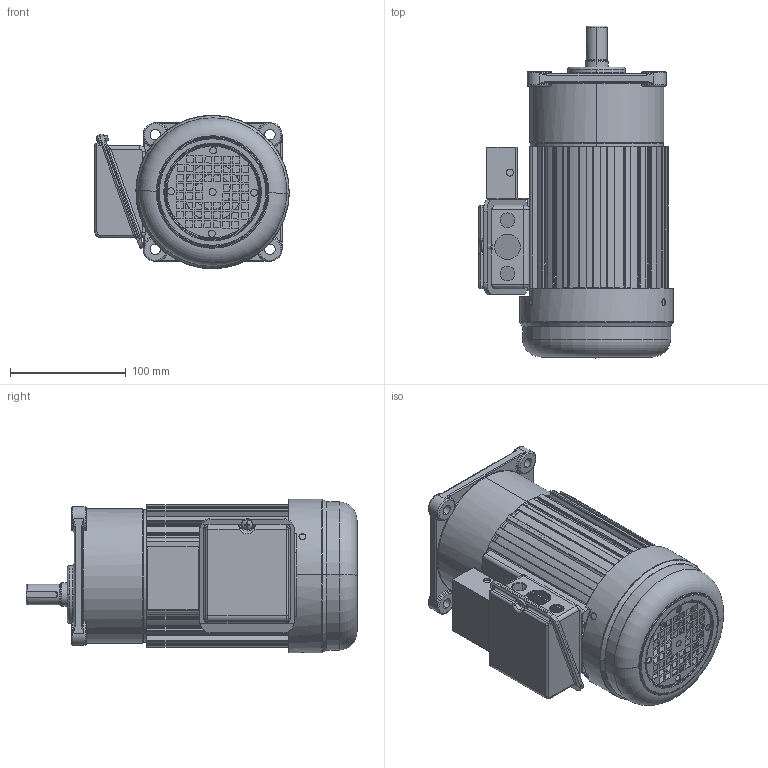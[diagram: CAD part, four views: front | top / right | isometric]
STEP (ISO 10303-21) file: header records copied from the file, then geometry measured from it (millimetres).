
FILE_DESCRIPTION (( 'STEP AP203' ), '1' );
FILE_NAME ('单相200W配1#立式带刹车.STEP', '2020-04-23T02:53:29', ( 'china' ), ( 'china' ), 'SwSTEP 2.0', 'SolidWorks 2019', '' );
FILE_SCHEMA (( 'CONFIG_CONTROL_DESIGN' ));
Length unit declared in the file: millimetre
Products named in the file (5): 单相200W配1#立式带刹车; 等眈200W1#蕾宒; 100W棠憤迖殤; 100W价陬瑞欶; 淕霜ん
Assembly tree (4 placements, depth 2):
  单相200W配1#立式带刹车
    等眈200W1#蕾宒
    100W棠憤迖殤
    100W价陬瑞欶
    淕霜ん
Bounding box: 168.19 x 286.81 x 132.59 mm (x, y, z)
Volume: 1311983.1 mm3; surface area: 359302.1 mm2
Topology: 8 solids, 8 shells, 998 faces, 2696 edges, 1723 vertices
Faces by surface type: plane 415, cylinder 396, bspline 96, torus 56, cone 29, sphere 6
Entity records: 38700 total; most frequent: CARTESIAN_POINT 12730, ORIENTED_EDGE 5354, DIRECTION 5345, EDGE_CURVE 2677, AXIS2_PLACEMENT_3D 1943, VERTEX_POINT 1723, VECTOR 1459, LINE 1459
